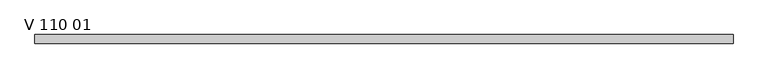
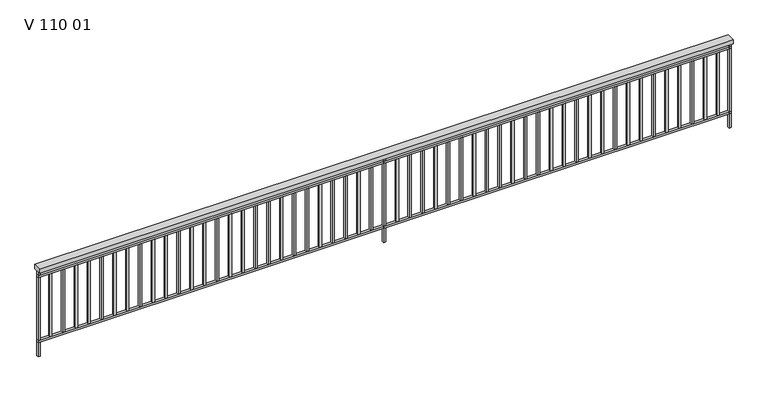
"""IFC4 building model written with IfcOpenShell, lengths in millimetres: railing geometry, V 110 01."""

from ifc_helpers import new_model, si_unit, frame, origin, origin_with_axes, place, context, project, spatial, polyline, outline, extrude, source, transform, mapped, element, save


def v_110_01_298ecec1(model_context):
    return source(origin(), model_context, "Body", "SweptSolid", [
        extrude(outline(polyline([(57934.3577062, -9645.2593714), (57934.3577062, -9545.2593714), (66001.0243729, -9545.2593714), (66001.0243729, -9645.2593714), (57934.3577062, -9645.2593714)])), frame((0.0, 0.0, 1050.0), z_axis=(0.0, 0.0, 1.0), x_axis=(1.0, 0.0, 0.0)), (0.0, 0.0, 1.0), 50.0),
        extrude(outline(polyline([(57934.3577062, -9607.7593714), (57934.3577062, -9582.7593714), (66001.0243729, -9582.7593714), (66001.0243729, -9607.7593714), (57934.3577062, -9607.7593714)])), frame((0.0, 0.0, 975.0), z_axis=(0.0, 0.0, 1.0), x_axis=(1.0, 0.0, 0.0)), (0.0, 0.0, 1.0), 25.0),
        extrude(outline(polyline([(57934.3577062, -9607.7593714), (57934.3577062, -9582.7593714), (66001.0243729, -9582.7593714), (66001.0243729, -9607.7593714), (57934.3577062, -9607.7593714)])), frame((0.0, 0.0, 175.0), z_axis=(0.0, 0.0, 1.0), x_axis=(1.0, 0.0, 0.0)), (0.0, 0.0, 1.0), 25.0),
        extrude(outline(polyline([(65839.1416568, -9607.7593714), (65839.1416568, -9582.7593714), (65864.1416568, -9582.7593714), (65864.1416568, -9607.7593714), (65839.1416568, -9607.7593714)])), frame((0.0, 0.0, 200.0), z_axis=(0.0, 0.0, 1.0), x_axis=(1.0, 0.0, 0.0)), (0.0, 0.0, 1.0), 775.0),
        extrude(outline(polyline([(65689.7589408, -9607.7593714), (65689.7589408, -9582.7593714), (65714.7589408, -9582.7593714), (65714.7589408, -9607.7593714), (65689.7589408, -9607.7593714)])), frame((0.0, 0.0, 200.0), z_axis=(0.0, 0.0, 1.0), x_axis=(1.0, 0.0, 0.0)), (0.0, 0.0, 1.0), 775.0),
        extrude(outline(polyline([(65540.3762247, -9607.7593714), (65540.3762247, -9582.7593714), (65565.3762247, -9582.7593714), (65565.3762247, -9607.7593714), (65540.3762247, -9607.7593714)])), frame((0.0, 0.0, 200.0), z_axis=(0.0, 0.0, 1.0), x_axis=(1.0, 0.0, 0.0)), (0.0, 0.0, 1.0), 775.0),
        extrude(outline(polyline([(65390.9935087, -9607.7593714), (65390.9935087, -9582.7593714), (65415.9935087, -9582.7593714), (65415.9935087, -9607.7593714), (65390.9935087, -9607.7593714)])), frame((0.0, 0.0, 200.0), z_axis=(0.0, 0.0, 1.0), x_axis=(1.0, 0.0, 0.0)), (0.0, 0.0, 1.0), 775.0),
        extrude(outline(polyline([(65241.6107926, -9607.7593714), (65241.6107926, -9582.7593714), (65266.6107926, -9582.7593714), (65266.6107926, -9607.7593714), (65241.6107926, -9607.7593714)])), frame((0.0, 0.0, 200.0), z_axis=(0.0, 0.0, 1.0), x_axis=(1.0, 0.0, 0.0)), (0.0, 0.0, 1.0), 775.0),
        extrude(outline(polyline([(65092.2280766, -9607.7593714), (65092.2280766, -9582.7593714), (65117.2280766, -9582.7593714), (65117.2280766, -9607.7593714), (65092.2280766, -9607.7593714)])), frame((0.0, 0.0, 200.0), z_axis=(0.0, 0.0, 1.0), x_axis=(1.0, 0.0, 0.0)), (0.0, 0.0, 1.0), 775.0),
        extrude(outline(polyline([(64942.8453605, -9607.7593714), (64942.8453605, -9582.7593714), (64967.8453605, -9582.7593714), (64967.8453605, -9607.7593714), (64942.8453605, -9607.7593714)])), frame((0.0, 0.0, 200.0), z_axis=(0.0, 0.0, 1.0), x_axis=(1.0, 0.0, 0.0)), (0.0, 0.0, 1.0), 775.0),
        extrude(outline(polyline([(64793.4626445, -9607.7593714), (64793.4626445, -9582.7593714), (64818.4626445, -9582.7593714), (64818.4626445, -9607.7593714), (64793.4626445, -9607.7593714)])), frame((0.0, 0.0, 200.0), z_axis=(0.0, 0.0, 1.0), x_axis=(1.0, 0.0, 0.0)), (0.0, 0.0, 1.0), 775.0),
        extrude(outline(polyline([(64644.0799284, -9607.7593714), (64644.0799284, -9582.7593714), (64669.0799284, -9582.7593714), (64669.0799284, -9607.7593714), (64644.0799284, -9607.7593714)])), frame((0.0, 0.0, 200.0), z_axis=(0.0, 0.0, 1.0), x_axis=(1.0, 0.0, 0.0)), (0.0, 0.0, 1.0), 775.0),
        extrude(outline(polyline([(64494.6972124, -9607.7593714), (64494.6972124, -9582.7593714), (64519.6972124, -9582.7593714), (64519.6972124, -9607.7593714), (64494.6972124, -9607.7593714)])), frame((0.0, 0.0, 200.0), z_axis=(0.0, 0.0, 1.0), x_axis=(1.0, 0.0, 0.0)), (0.0, 0.0, 1.0), 775.0),
        extrude(outline(polyline([(64345.3144963, -9607.7593714), (64345.3144963, -9582.7593714), (64370.3144963, -9582.7593714), (64370.3144963, -9607.7593714), (64345.3144963, -9607.7593714)])), frame((0.0, 0.0, 200.0), z_axis=(0.0, 0.0, 1.0), x_axis=(1.0, 0.0, 0.0)), (0.0, 0.0, 1.0), 775.0),
        extrude(outline(polyline([(64195.9317803, -9607.7593714), (64195.9317803, -9582.7593714), (64220.9317803, -9582.7593714), (64220.9317803, -9607.7593714), (64195.9317803, -9607.7593714)])), frame((0.0, 0.0, 200.0), z_axis=(0.0, 0.0, 1.0), x_axis=(1.0, 0.0, 0.0)), (0.0, 0.0, 1.0), 775.0),
        extrude(outline(polyline([(64046.5490642, -9607.7593714), (64046.5490642, -9582.7593714), (64071.5490642, -9582.7593714), (64071.5490642, -9607.7593714), (64046.5490642, -9607.7593714)])), frame((0.0, 0.0, 200.0), z_axis=(0.0, 0.0, 1.0), x_axis=(1.0, 0.0, 0.0)), (0.0, 0.0, 1.0), 775.0),
        extrude(outline(polyline([(63897.1663482, -9607.7593714), (63897.1663482, -9582.7593714), (63922.1663482, -9582.7593714), (63922.1663482, -9607.7593714), (63897.1663482, -9607.7593714)])), frame((0.0, 0.0, 200.0), z_axis=(0.0, 0.0, 1.0), x_axis=(1.0, 0.0, 0.0)), (0.0, 0.0, 1.0), 775.0),
        extrude(outline(polyline([(63747.7836321, -9607.7593714), (63747.7836321, -9582.7593714), (63772.7836321, -9582.7593714), (63772.7836321, -9607.7593714), (63747.7836321, -9607.7593714)])), frame((0.0, 0.0, 200.0), z_axis=(0.0, 0.0, 1.0), x_axis=(1.0, 0.0, 0.0)), (0.0, 0.0, 1.0), 775.0),
        extrude(outline(polyline([(63598.4009161, -9607.7593714), (63598.4009161, -9582.7593714), (63623.4009161, -9582.7593714), (63623.4009161, -9607.7593714), (63598.4009161, -9607.7593714)])), frame((0.0, 0.0, 200.0), z_axis=(0.0, 0.0, 1.0), x_axis=(1.0, 0.0, 0.0)), (0.0, 0.0, 1.0), 775.0),
        extrude(outline(polyline([(63449.0182, -9607.7593714), (63449.0182, -9582.7593714), (63474.0182, -9582.7593714), (63474.0182, -9607.7593714), (63449.0182, -9607.7593714)])), frame((0.0, 0.0, 200.0), z_axis=(0.0, 0.0, 1.0), x_axis=(1.0, 0.0, 0.0)), (0.0, 0.0, 1.0), 775.0),
        extrude(outline(polyline([(63299.635484, -9607.7593714), (63299.635484, -9582.7593714), (63324.635484, -9582.7593714), (63324.635484, -9607.7593714), (63299.635484, -9607.7593714)])), frame((0.0, 0.0, 200.0), z_axis=(0.0, 0.0, 1.0), x_axis=(1.0, 0.0, 0.0)), (0.0, 0.0, 1.0), 775.0),
        extrude(outline(polyline([(63150.2527679, -9607.7593714), (63150.2527679, -9582.7593714), (63175.2527679, -9582.7593714), (63175.2527679, -9607.7593714), (63150.2527679, -9607.7593714)])), frame((0.0, 0.0, 200.0), z_axis=(0.0, 0.0, 1.0), x_axis=(1.0, 0.0, 0.0)), (0.0, 0.0, 1.0), 775.0),
        extrude(outline(polyline([(63000.8700519, -9607.7593714), (63000.8700519, -9582.7593714), (63025.8700519, -9582.7593714), (63025.8700519, -9607.7593714), (63000.8700519, -9607.7593714)])), frame((0.0, 0.0, 200.0), z_axis=(0.0, 0.0, 1.0), x_axis=(1.0, 0.0, 0.0)), (0.0, 0.0, 1.0), 775.0),
        extrude(outline(polyline([(62851.4873358, -9607.7593714), (62851.4873358, -9582.7593714), (62876.4873358, -9582.7593714), (62876.4873358, -9607.7593714), (62851.4873358, -9607.7593714)])), frame((0.0, 0.0, 200.0), z_axis=(0.0, 0.0, 1.0), x_axis=(1.0, 0.0, 0.0)), (0.0, 0.0, 1.0), 775.0),
        extrude(outline(polyline([(62702.1046198, -9607.7593714), (62702.1046198, -9582.7593714), (62727.1046198, -9582.7593714), (62727.1046198, -9607.7593714), (62702.1046198, -9607.7593714)])), frame((0.0, 0.0, 200.0), z_axis=(0.0, 0.0, 1.0), x_axis=(1.0, 0.0, 0.0)), (0.0, 0.0, 1.0), 775.0),
        extrude(outline(polyline([(62552.7219037, -9607.7593714), (62552.7219037, -9582.7593714), (62577.7219037, -9582.7593714), (62577.7219037, -9607.7593714), (62552.7219037, -9607.7593714)])), frame((0.0, 0.0, 200.0), z_axis=(0.0, 0.0, 1.0), x_axis=(1.0, 0.0, 0.0)), (0.0, 0.0, 1.0), 775.0),
        extrude(outline(polyline([(62403.3391877, -9607.7593714), (62403.3391877, -9582.7593714), (62428.3391877, -9582.7593714), (62428.3391877, -9607.7593714), (62403.3391877, -9607.7593714)])), frame((0.0, 0.0, 200.0), z_axis=(0.0, 0.0, 1.0), x_axis=(1.0, 0.0, 0.0)), (0.0, 0.0, 1.0), 775.0),
        extrude(outline(polyline([(62253.9564716, -9607.7593714), (62253.9564716, -9582.7593714), (62278.9564716, -9582.7593714), (62278.9564716, -9607.7593714), (62253.9564716, -9607.7593714)])), frame((0.0, 0.0, 200.0), z_axis=(0.0, 0.0, 1.0), x_axis=(1.0, 0.0, 0.0)), (0.0, 0.0, 1.0), 775.0),
        extrude(outline(polyline([(62104.5737556, -9607.7593714), (62104.5737556, -9582.7593714), (62129.5737556, -9582.7593714), (62129.5737556, -9607.7593714), (62104.5737556, -9607.7593714)])), frame((0.0, 0.0, 200.0), z_axis=(0.0, 0.0, 1.0), x_axis=(1.0, 0.0, 0.0)), (0.0, 0.0, 1.0), 775.0),
        extrude(outline(polyline([(61805.8083235, -9607.7593714), (61805.8083235, -9582.7593714), (61830.8083235, -9582.7593714), (61830.8083235, -9607.7593714), (61805.8083235, -9607.7593714)])), frame((0.0, 0.0, 200.0), z_axis=(0.0, 0.0, 1.0), x_axis=(1.0, 0.0, 0.0)), (0.0, 0.0, 1.0), 775.0),
        extrude(outline(polyline([(61656.4256074, -9607.7593714), (61656.4256074, -9582.7593714), (61681.4256074, -9582.7593714), (61681.4256074, -9607.7593714), (61656.4256074, -9607.7593714)])), frame((0.0, 0.0, 200.0), z_axis=(0.0, 0.0, 1.0), x_axis=(1.0, 0.0, 0.0)), (0.0, 0.0, 1.0), 775.0),
        extrude(outline(polyline([(61507.0428914, -9607.7593714), (61507.0428914, -9582.7593714), (61532.0428914, -9582.7593714), (61532.0428914, -9607.7593714), (61507.0428914, -9607.7593714)])), frame((0.0, 0.0, 200.0), z_axis=(0.0, 0.0, 1.0), x_axis=(1.0, 0.0, 0.0)), (0.0, 0.0, 1.0), 775.0),
        extrude(outline(polyline([(61357.6601753, -9607.7593714), (61357.6601753, -9582.7593714), (61382.6601753, -9582.7593714), (61382.6601753, -9607.7593714), (61357.6601753, -9607.7593714)])), frame((0.0, 0.0, 200.0), z_axis=(0.0, 0.0, 1.0), x_axis=(1.0, 0.0, 0.0)), (0.0, 0.0, 1.0), 775.0),
        extrude(outline(polyline([(61208.2774593, -9607.7593714), (61208.2774593, -9582.7593714), (61233.2774593, -9582.7593714), (61233.2774593, -9607.7593714), (61208.2774593, -9607.7593714)])), frame((0.0, 0.0, 200.0), z_axis=(0.0, 0.0, 1.0), x_axis=(1.0, 0.0, 0.0)), (0.0, 0.0, 1.0), 775.0),
        extrude(outline(polyline([(61058.8947432, -9607.7593714), (61058.8947432, -9582.7593714), (61083.8947432, -9582.7593714), (61083.8947432, -9607.7593714), (61058.8947432, -9607.7593714)])), frame((0.0, 0.0, 200.0), z_axis=(0.0, 0.0, 1.0), x_axis=(1.0, 0.0, 0.0)), (0.0, 0.0, 1.0), 775.0),
        extrude(outline(polyline([(60909.5120272, -9607.7593714), (60909.5120272, -9582.7593714), (60934.5120272, -9582.7593714), (60934.5120272, -9607.7593714), (60909.5120272, -9607.7593714)])), frame((0.0, 0.0, 200.0), z_axis=(0.0, 0.0, 1.0), x_axis=(1.0, 0.0, 0.0)), (0.0, 0.0, 1.0), 775.0),
        extrude(outline(polyline([(60760.1293111, -9607.7593714), (60760.1293111, -9582.7593714), (60785.1293111, -9582.7593714), (60785.1293111, -9607.7593714), (60760.1293111, -9607.7593714)])), frame((0.0, 0.0, 200.0), z_axis=(0.0, 0.0, 1.0), x_axis=(1.0, 0.0, 0.0)), (0.0, 0.0, 1.0), 775.0),
        extrude(outline(polyline([(60610.7465951, -9607.7593714), (60610.7465951, -9582.7593714), (60635.7465951, -9582.7593714), (60635.7465951, -9607.7593714), (60610.7465951, -9607.7593714)])), frame((0.0, 0.0, 200.0), z_axis=(0.0, 0.0, 1.0), x_axis=(1.0, 0.0, 0.0)), (0.0, 0.0, 1.0), 775.0),
        extrude(outline(polyline([(60461.363879, -9607.7593714), (60461.363879, -9582.7593714), (60486.363879, -9582.7593714), (60486.363879, -9607.7593714), (60461.363879, -9607.7593714)])), frame((0.0, 0.0, 200.0), z_axis=(0.0, 0.0, 1.0), x_axis=(1.0, 0.0, 0.0)), (0.0, 0.0, 1.0), 775.0),
        extrude(outline(polyline([(60311.981163, -9607.7593714), (60311.981163, -9582.7593714), (60336.981163, -9582.7593714), (60336.981163, -9607.7593714), (60311.981163, -9607.7593714)])), frame((0.0, 0.0, 200.0), z_axis=(0.0, 0.0, 1.0), x_axis=(1.0, 0.0, 0.0)), (0.0, 0.0, 1.0), 775.0),
        extrude(outline(polyline([(60162.5984469, -9607.7593714), (60162.5984469, -9582.7593714), (60187.5984469, -9582.7593714), (60187.5984469, -9607.7593714), (60162.5984469, -9607.7593714)])), frame((0.0, 0.0, 200.0), z_axis=(0.0, 0.0, 1.0), x_axis=(1.0, 0.0, 0.0)), (0.0, 0.0, 1.0), 775.0),
        extrude(outline(polyline([(60013.2157309, -9607.7593714), (60013.2157309, -9582.7593714), (60038.2157309, -9582.7593714), (60038.2157309, -9607.7593714), (60013.2157309, -9607.7593714)])), frame((0.0, 0.0, 200.0), z_axis=(0.0, 0.0, 1.0), x_axis=(1.0, 0.0, 0.0)), (0.0, 0.0, 1.0), 775.0),
        extrude(outline(polyline([(59863.8330148, -9607.7593714), (59863.8330148, -9582.7593714), (59888.8330148, -9582.7593714), (59888.8330148, -9607.7593714), (59863.8330148, -9607.7593714)])), frame((0.0, 0.0, 200.0), z_axis=(0.0, 0.0, 1.0), x_axis=(1.0, 0.0, 0.0)), (0.0, 0.0, 1.0), 775.0),
        extrude(outline(polyline([(59714.4502988, -9607.7593714), (59714.4502988, -9582.7593714), (59739.4502988, -9582.7593714), (59739.4502988, -9607.7593714), (59714.4502988, -9607.7593714)])), frame((0.0, 0.0, 200.0), z_axis=(0.0, 0.0, 1.0), x_axis=(1.0, 0.0, 0.0)), (0.0, 0.0, 1.0), 775.0),
        extrude(outline(polyline([(59565.0675827, -9607.7593714), (59565.0675827, -9582.7593714), (59590.0675827, -9582.7593714), (59590.0675827, -9607.7593714), (59565.0675827, -9607.7593714)])), frame((0.0, 0.0, 200.0), z_axis=(0.0, 0.0, 1.0), x_axis=(1.0, 0.0, 0.0)), (0.0, 0.0, 1.0), 775.0),
        extrude(outline(polyline([(59415.6848667, -9607.7593714), (59415.6848667, -9582.7593714), (59440.6848667, -9582.7593714), (59440.6848667, -9607.7593714), (59415.6848667, -9607.7593714)])), frame((0.0, 0.0, 200.0), z_axis=(0.0, 0.0, 1.0), x_axis=(1.0, 0.0, 0.0)), (0.0, 0.0, 1.0), 775.0),
        extrude(outline(polyline([(59266.3021506, -9607.7593714), (59266.3021506, -9582.7593714), (59291.3021506, -9582.7593714), (59291.3021506, -9607.7593714), (59266.3021506, -9607.7593714)])), frame((0.0, 0.0, 200.0), z_axis=(0.0, 0.0, 1.0), x_axis=(1.0, 0.0, 0.0)), (0.0, 0.0, 1.0), 775.0),
        extrude(outline(polyline([(59116.9194346, -9607.7593714), (59116.9194346, -9582.7593714), (59141.9194346, -9582.7593714), (59141.9194346, -9607.7593714), (59116.9194346, -9607.7593714)])), frame((0.0, 0.0, 200.0), z_axis=(0.0, 0.0, 1.0), x_axis=(1.0, 0.0, 0.0)), (0.0, 0.0, 1.0), 775.0),
        extrude(outline(polyline([(58967.5367185, -9607.7593714), (58967.5367185, -9582.7593714), (58992.5367185, -9582.7593714), (58992.5367185, -9607.7593714), (58967.5367185, -9607.7593714)])), frame((0.0, 0.0, 200.0), z_axis=(0.0, 0.0, 1.0), x_axis=(1.0, 0.0, 0.0)), (0.0, 0.0, 1.0), 775.0),
        extrude(outline(polyline([(58818.1540025, -9607.7593714), (58818.1540025, -9582.7593714), (58843.1540025, -9582.7593714), (58843.1540025, -9607.7593714), (58818.1540025, -9607.7593714)])), frame((0.0, 0.0, 200.0), z_axis=(0.0, 0.0, 1.0), x_axis=(1.0, 0.0, 0.0)), (0.0, 0.0, 1.0), 775.0),
        extrude(outline(polyline([(58668.7712864, -9607.7593714), (58668.7712864, -9582.7593714), (58693.7712864, -9582.7593714), (58693.7712864, -9607.7593714), (58668.7712864, -9607.7593714)])), frame((0.0, 0.0, 200.0), z_axis=(0.0, 0.0, 1.0), x_axis=(1.0, 0.0, 0.0)), (0.0, 0.0, 1.0), 775.0),
        extrude(outline(polyline([(58519.3885704, -9607.7593714), (58519.3885704, -9582.7593714), (58544.3885704, -9582.7593714), (58544.3885704, -9607.7593714), (58519.3885704, -9607.7593714)])), frame((0.0, 0.0, 200.0), z_axis=(0.0, 0.0, 1.0), x_axis=(1.0, 0.0, 0.0)), (0.0, 0.0, 1.0), 775.0),
        extrude(outline(polyline([(58370.0058543, -9607.7593714), (58370.0058543, -9582.7593714), (58395.0058543, -9582.7593714), (58395.0058543, -9607.7593714), (58370.0058543, -9607.7593714)])), frame((0.0, 0.0, 200.0), z_axis=(0.0, 0.0, 1.0), x_axis=(1.0, 0.0, 0.0)), (0.0, 0.0, 1.0), 775.0),
        extrude(outline(polyline([(58220.6231383, -9607.7593714), (58220.6231383, -9582.7593714), (58245.6231383, -9582.7593714), (58245.6231383, -9607.7593714), (58220.6231383, -9607.7593714)])), frame((0.0, 0.0, 200.0), z_axis=(0.0, 0.0, 1.0), x_axis=(1.0, 0.0, 0.0)), (0.0, 0.0, 1.0), 775.0),
        extrude(outline(polyline([(58071.2404222, -9607.7593714), (58071.2404222, -9582.7593714), (58096.2404222, -9582.7593714), (58096.2404222, -9607.7593714), (58071.2404222, -9607.7593714)])), frame((0.0, 0.0, 200.0), z_axis=(0.0, 0.0, 1.0), x_axis=(1.0, 0.0, 0.0)), (0.0, 0.0, 1.0), 775.0),
        extrude(outline(polyline([(61955.1910395, -9607.7593714), (61955.1910395, -9582.7593714), (61980.1910395, -9582.7593714), (61980.1910395, -9607.7593714), (61955.1910395, -9607.7593714)])), origin_with_axes(), (0.0, 0.0, 1.0), 1050.0),
        extrude(outline(polyline([(65976.0243729, -9607.7593714), (65976.0243729, -9582.7593714), (66001.0243729, -9582.7593714), (66001.0243729, -9607.7593714), (65976.0243729, -9607.7593714)])), origin_with_axes(), (0.0, 0.0, 1.0), 1050.0),
        extrude(outline(polyline([(57934.3577062, -9607.7593714), (57934.3577062, -9582.7593714), (57959.3577062, -9582.7593714), (57959.3577062, -9607.7593714), (57934.3577062, -9607.7593714)])), origin_with_axes(), (0.0, 0.0, 1.0), 1050.0),
    ])


if __name__ == "__main__":
    model = new_model("IFC4")
    model_context = context("Model", 3, world=origin())
    ifc_project = project(units=[si_unit("LENGTHUNIT", "METRE", prefix="MILLI")], contexts=[model_context])
    site = spatial("IfcSite", under=ifc_project)
    building = spatial("IfcBuilding", under=site)
    placement = place(None, origin())
    v_110_01_shape = v_110_01_298ecec1(model_context)
    element("IfcRailing", 1, ObjectType="V 110 01", at=placement, inside=building, context=model_context, shape_type="MappedRepresentation", body=[
        mapped(v_110_01_shape, transform((0.0, 0.0, 0.0), x_axis=(1.0, 0.0, 0.0), y_axis=(0.0, 1.0, 0.0), z_axis=(0.0, 0.0, 1.0))),
    ])
    save(model, "model.ifc")
